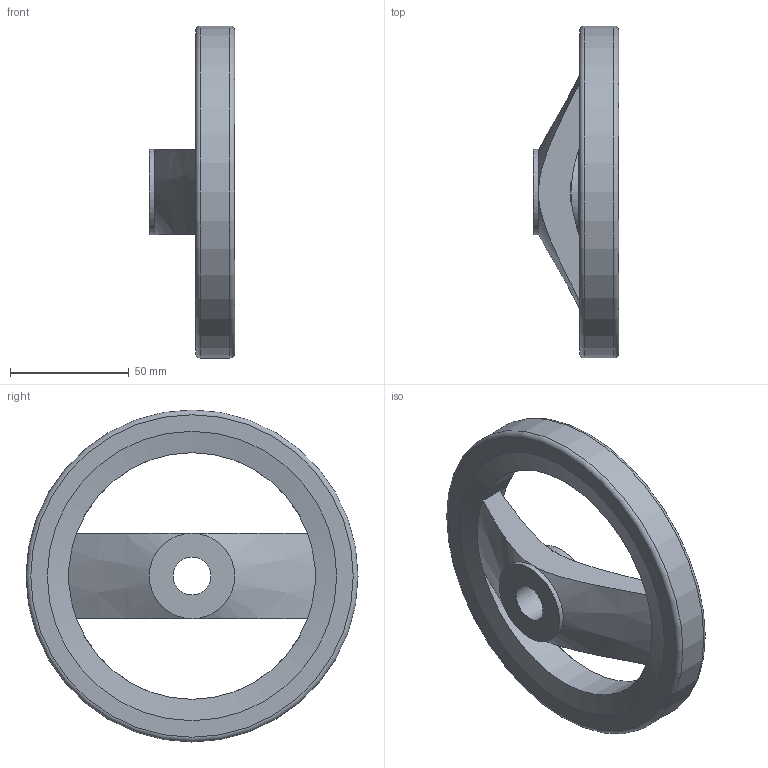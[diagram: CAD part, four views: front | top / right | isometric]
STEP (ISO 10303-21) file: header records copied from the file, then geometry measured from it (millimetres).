
FILE_DESCRIPTION( ( 'STEP AP203' ), '1' );
FILE_NAME( 'C:/Temp/Ganter_Step_05_03_2020/data/1_3/gn_324/gn_324_b/gn_324_b_a/Handwheel, matt black GN 324-140-B16-A.stp', '2020-03-05T10:32:54', ( 'License CC BY-ND 4.0' ), ( 'CADENAS' ), ' ', 'PARTsolutions', ' ' );
FILE_SCHEMA( ( 'CONFIG_CONTROL_DESIGN' ) );
Length unit declared in the file: millimetre
Products named in the file (1): _Handwheel, matt black GN 324-140-B16-A
Bounding box: 36 x 140 x 140 mm (x, y, z)
Volume: 157593.6 mm3; surface area: 35810.5 mm2
Topology: 1 solids, 1 shells, 19 faces, 43 edges, 24 vertices
Faces by surface type: plane 6, cone 6, cylinder 5, torus 2
Full cylindrical faces by diameter (mm): 16 x1, 36 x2, 104 x1, 140 x1
Entity records: 648 total; most frequent: CARTESIAN_POINT 212, DIRECTION 86, ORIENTED_EDGE 66, AXIS2_PLACEMENT_3D 41, EDGE_CURVE 33, EDGE_LOOP 32, FACE_OUTER_BOUND 26, VERTEX_POINT 23
